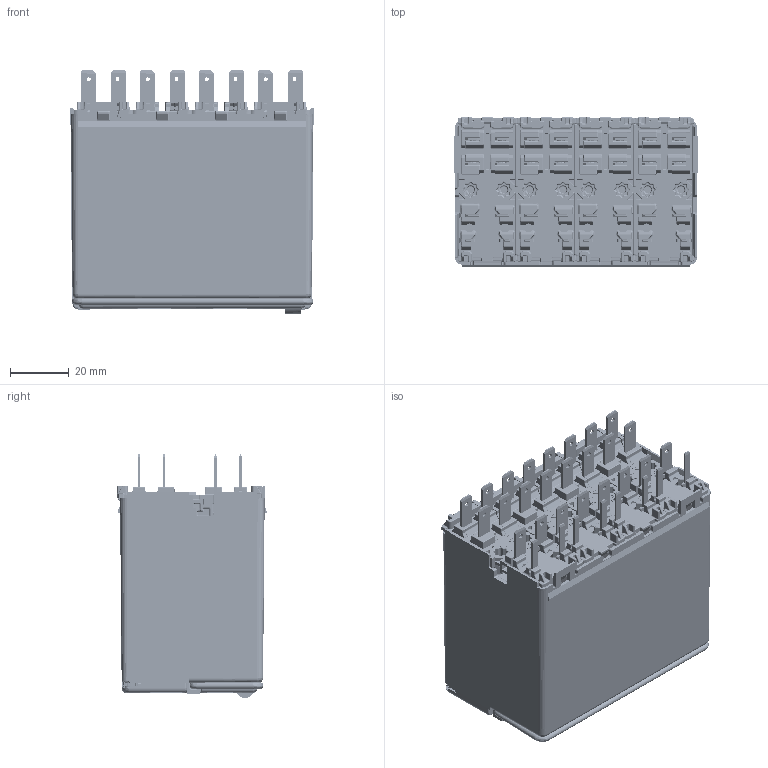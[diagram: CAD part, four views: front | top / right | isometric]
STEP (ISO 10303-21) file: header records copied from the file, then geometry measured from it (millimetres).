
FILE_DESCRIPTION (( 'STEP AP203' ), '1' );
FILE_NAME ('RELE_J_N_OP.STEP', '2018-08-07T08:11:38', ( 'arteche' ), ( '' ), 'SwSTEP 2.0', 'SolidWorks 2017', '' );
FILE_SCHEMA (( 'CONFIG_CONTROL_DESIGN' ));
Length unit declared in the file: millimetre
Products named in the file (105): 510586203 LAMINA PORTACONTACTO N OP_LAMINA PORTACONTACTO PLUS; 510585357_D LAMINA PORTACONTACTO MOVIL OP FF; XXXXXXXXX LAMINA PORTACONTACTO MOVIL CONTACTO (FF)_LAMINA PORTACONTACTO MOVIL CONTACTO PLUS; 598509053_E02 ZOCALO N OP_Zocalo op; 598800076 ZOCALO D N OP FF; XXXXXXXXX Contacto_1,3_LAMINA PORTACONTACTO 1,4MM SUPERIOR PLUS; 566000147 SEPARADOR MODULOS N OP; 510586007 LAMINA PORTACONTACTO 1,3 OP; XXXXXXXXX_B LAMINA PORTACONTACTO MOVIL SIM OP LATON; XXXXXXXXX_H LAMINA PORTACONTACTO MOVIL OP COBRE BERILIO; 598800688 ZOCALO J N OP FF; 510586015 LAMINA PORTACONTACTO SIM 1,3 OP; XXXXXXXXX LAMINA PORTACONTACTO MOVIL CONTACTO_LAMINA PORTACONTACTO MOVIL CONTACTO PLUS; 466342334_D CUBIERTA J CORTA OP; 510585244_C LAMINA PORTACONTACTO MOVIL SIM OP; 569910334_G TAPA CUBIERTA J BOTON PRUEBA OP_569910334 TAPA CUBIERTA J BOTON PRUEBA OP; 510753049 LAMINA SALIDA BOBINA PLANA N OP; XXXXXXXXX_G LAMINA PORTACONTACTO MOVIL OP LATON; 482509148 Empuñadura J OP_EMPU¥ADURA J PLUS; RELE_J_N_OP; 568802007_B SUPLEMENTO ZOCALO N OP_Zocalo op
Assembly tree (107 placements, depth 5):
  RELE_J_N_OP
    598800688 ZOCALO J N OP FF
      598800076 ZOCALO D N OP FF
        598509053_E02 ZOCALO N OP_Zocalo op
        510585244_C LAMINA PORTACONTACTO MOVIL SIM OP
          XXXXXXXXX_B LAMINA PORTACONTACTO MOVIL SIM OP LATON
          XXXXXXXXX_H LAMINA PORTACONTACTO MOVIL OP COBRE BERILIO
          XXXXXXXXX LAMINA PORTACONTACTO MOVIL CONTACTO_LAMINA PORTACONTACTO MOVIL CONTACTO PLUS
        510585357_D LAMINA PORTACONTACTO MOVIL OP FF
          XXXXXXXXX_G LAMINA PORTACONTACTO MOVIL OP LATON
          XXXXXXXXX_H LAMINA PORTACONTACTO MOVIL OP COBRE BERILIO
          XXXXXXXXX LAMINA PORTACONTACTO MOVIL CONTACTO (FF)_LAMINA PORTACONTACTO MOVIL CONTACTO PLUS
        510586015 LAMINA PORTACONTACTO SIM 1,3 OP
          510586203 LAMINA PORTACONTACTO N OP_LAMINA PORTACONTACTO PLUS
          XXXXXXXXX Contacto_1,3_LAMINA PORTACONTACTO 1,4MM SUPERIOR PLUS
        510586007 LAMINA PORTACONTACTO 1,3 OP
          510586203 LAMINA PORTACONTACTO N OP_LAMINA PORTACONTACTO PLUS
          XXXXXXXXX Contacto_1,3_LAMINA PORTACONTACTO 1,4MM SUPERIOR PLUS
        510586007 LAMINA PORTACONTACTO 1,3 OP
          510586203 LAMINA PORTACONTACTO N OP_LAMINA PORTACONTACTO PLUS
          XXXXXXXXX Contacto_1,3_LAMINA PORTACONTACTO 1,4MM SUPERIOR PLUS
        510586015 LAMINA PORTACONTACTO SIM 1,3 OP
          510586203 LAMINA PORTACONTACTO N OP_LAMINA PORTACONTACTO PLUS
          XXXXXXXXX Contacto_1,3_LAMINA PORTACONTACTO 1,4MM SUPERIOR PLUS
        510753049 LAMINA SALIDA BOBINA PLANA N OP
        510753049 LAMINA SALIDA BOBINA PLANA N OP
        568802007_B SUPLEMENTO ZOCALO N OP_Zocalo op
      598800076 ZOCALO D N OP FF
        598509053_E02 ZOCALO N OP_Zocalo op
        510585244_C LAMINA PORTACONTACTO MOVIL SIM OP
          XXXXXXXXX_B LAMINA PORTACONTACTO MOVIL SIM OP LATON
          XXXXXXXXX_H LAMINA PORTACONTACTO MOVIL OP COBRE BERILIO
          XXXXXXXXX LAMINA PORTACONTACTO MOVIL CONTACTO_LAMINA PORTACONTACTO MOVIL CONTACTO PLUS
        510585357_D LAMINA PORTACONTACTO MOVIL OP FF
          XXXXXXXXX_G LAMINA PORTACONTACTO MOVIL OP LATON
          XXXXXXXXX_H LAMINA PORTACONTACTO MOVIL OP COBRE BERILIO
          XXXXXXXXX LAMINA PORTACONTACTO MOVIL CONTACTO (FF)_LAMINA PORTACONTACTO MOVIL CONTACTO PLUS
        510586015 LAMINA PORTACONTACTO SIM 1,3 OP
          510586203 LAMINA PORTACONTACTO N OP_LAMINA PORTACONTACTO PLUS
          XXXXXXXXX Contacto_1,3_LAMINA PORTACONTACTO 1,4MM SUPERIOR PLUS
        510586007 LAMINA PORTACONTACTO 1,3 OP
          510586203 LAMINA PORTACONTACTO N OP_LAMINA PORTACONTACTO PLUS
          XXXXXXXXX Contacto_1,3_LAMINA PORTACONTACTO 1,4MM SUPERIOR PLUS
        510586007 LAMINA PORTACONTACTO 1,3 OP
          510586203 LAMINA PORTACONTACTO N OP_LAMINA PORTACONTACTO PLUS
          XXXXXXXXX Contacto_1,3_LAMINA PORTACONTACTO 1,4MM SUPERIOR PLUS
        510586015 LAMINA PORTACONTACTO SIM 1,3 OP
          510586203 LAMINA PORTACONTACTO N OP_LAMINA PORTACONTACTO PLUS
          XXXXXXXXX Contacto_1,3_LAMINA PORTACONTACTO 1,4MM SUPERIOR PLUS
        510753049 LAMINA SALIDA BOBINA PLANA N OP
        510753049 LAMINA SALIDA BOBINA PLANA N OP
        568802007_B SUPLEMENTO ZOCALO N OP_Zocalo op
      598800076 ZOCALO D N OP FF
        598509053_E02 ZOCALO N OP_Zocalo op
        510585244_C LAMINA PORTACONTACTO MOVIL SIM OP
          XXXXXXXXX_B LAMINA PORTACONTACTO MOVIL SIM OP LATON
          XXXXXXXXX_H LAMINA PORTACONTACTO MOVIL OP COBRE BERILIO
          XXXXXXXXX LAMINA PORTACONTACTO MOVIL CONTACTO_LAMINA PORTACONTACTO MOVIL CONTACTO PLUS
        510585357_D LAMINA PORTACONTACTO MOVIL OP FF
          XXXXXXXXX_G LAMINA PORTACONTACTO MOVIL OP LATON
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Bounding box: 82.5 x 50.63 x 82.64 mm (x, y, z)
Volume: 50029 mm3; surface area: 83212.4 mm2
Topology: 94 solids, 94 shells, 15727 faces, 38104 edges, 22011 vertices
Faces by surface type: cylinder 6437, plane 4915, bspline 4290, cone 85
Entity records: 478733 total; most frequent: CARTESIAN_POINT 176313, ORIENTED_EDGE 66220, DIRECTION 52873, EDGE_CURVE 33110, VERTEX_POINT 19512, AXIS2_PLACEMENT_3D 18003, VECTOR 16867, LINE 16867
